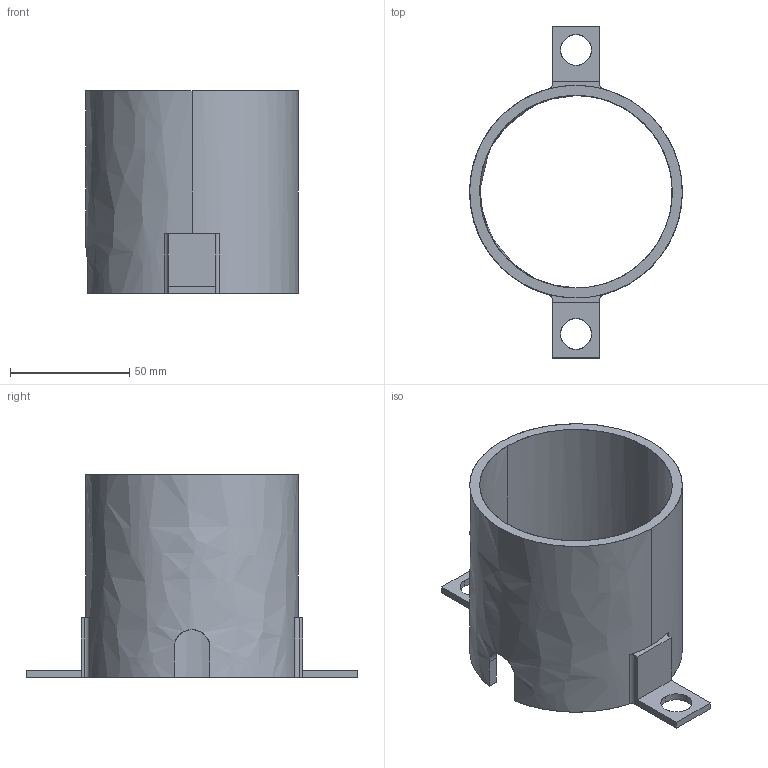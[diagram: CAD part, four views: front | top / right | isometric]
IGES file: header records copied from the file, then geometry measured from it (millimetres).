
Global section: file name: E:\UnigraphicsGraphicData\MISUMI_PRESS-PARTS\IGES\3d_ph50-85-r_07055_r00.igs; native system: NX V5.0; preprocessor: UGS NX IGES V5.0; author: MISUMI; date: 20110105.162244; units: millimetre
Bounding box: 89.1 x 139.1 x 85 mm (x, y, z)
Surface area: 52001.3 mm2 (no closed solid volume)
Topology: 0 solids, 0 shells, 41 faces, 290 edges, 290 vertices
Faces by surface type: bspline 41
